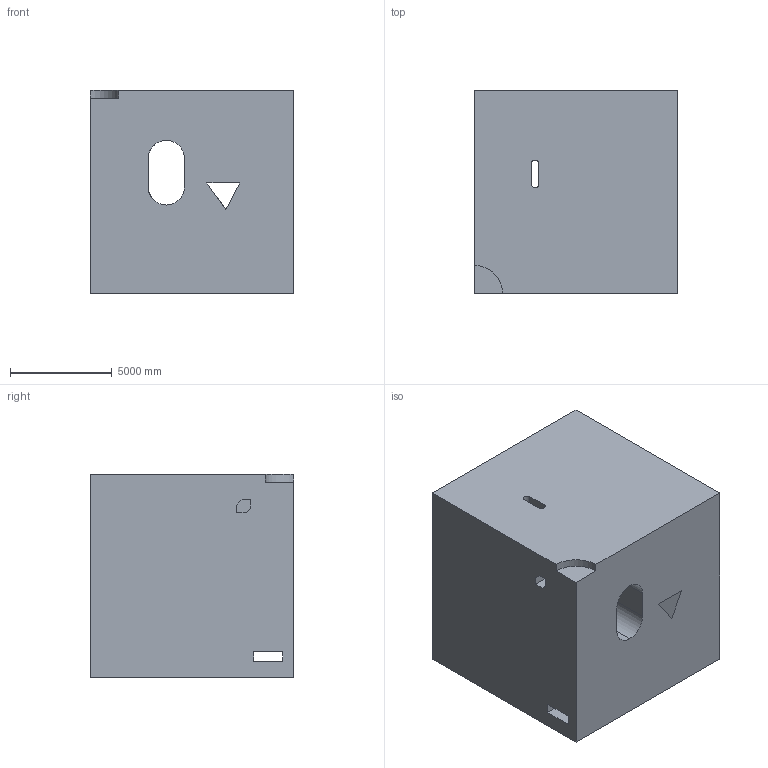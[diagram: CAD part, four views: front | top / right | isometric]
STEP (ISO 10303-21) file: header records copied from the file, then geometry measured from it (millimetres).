
FILE_DESCRIPTION (( 'STEP AP203' ), '1' );
FILE_NAME ('175.STEP', '2022-09-05T15:56:57', ( 'user' ), ( '' ), 'SwSTEP 2.0', 'SolidWorks 2021', '' );
FILE_SCHEMA (( 'CONFIG_CONTROL_DESIGN' ));
Length unit declared in the file: centimetre
Products named in the file (1): 175
Bounding box: 10000 x 10000 x 10000 mm (x, y, z)
Volume: 916401547385.7 mm3; surface area: 828466825.8 mm2
Topology: 1 solids, 1 shells, 43 faces, 132 edges, 88 vertices
Faces by surface type: plane 37, cylinder 6
Entity records: 1883 total; most frequent: CARTESIAN_POINT 594, ORIENTED_EDGE 264, DIRECTION 226, EDGE_CURVE 132, VECTOR 114, LINE 114, VERTEX_POINT 88, EDGE_LOOP 56
